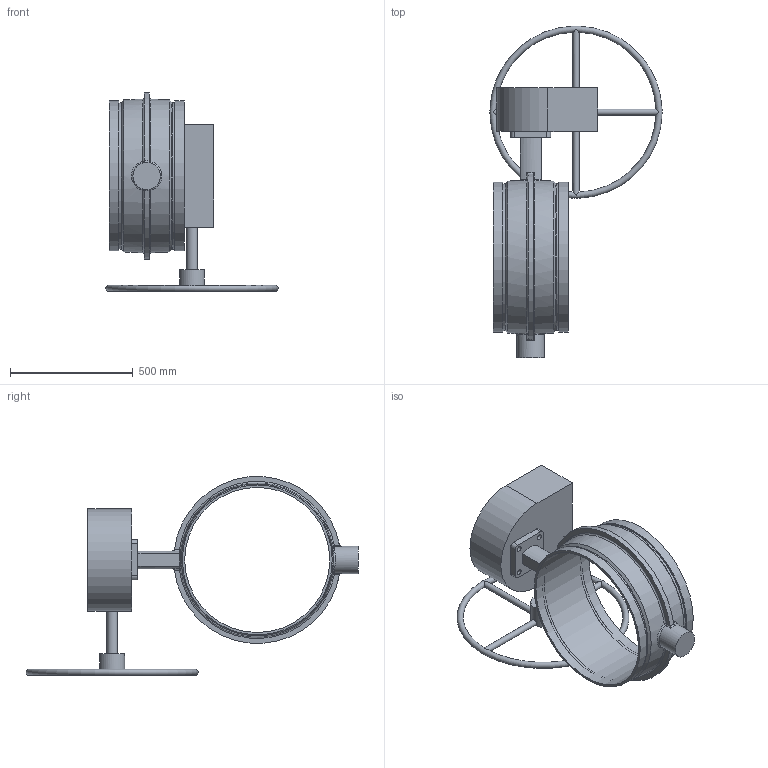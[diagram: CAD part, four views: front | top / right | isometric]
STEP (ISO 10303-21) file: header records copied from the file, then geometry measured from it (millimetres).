
FILE_DESCRIPTION(/* description */ ('VIC AGS VALVE BUTTERFLY VIC-300 MS GO SERIES W761 (AGS)'),/* implementation_level */ '2;1');
FILE_NAME(/* name */ 'C:\Files for Export\W761\STEP\Victaulic_IPS-AGS_Vlv Btfl Vic-300 MS GO_Series W761 (AGS)\Victaulic_IPS-AGS_Vlv Btfl Vic-300 MS GO_Series W761 (AGS)_24 (600).stp',/* time_stamp */ '2024-08-27T14:19:40+02:00',/* author */ ('jheald'),/* organization */ ('Victaulic'),/* preprocessor_version */ 'ST-DEVELOPER v18.1',/* originating_system */ 'Autodesk Inventor 2020',/* authorisation */ '');
FILE_SCHEMA (('AUTOMOTIVE_DESIGN { 1 0 10303 214 3 1 1 }'));
Length unit declared in the file: inch
Products named in the file (1): W761-24.0
Bounding box: 700.02 x 1350.26 x 809.1 mm (x, y, z)
Volume: 41060068.8 mm3; surface area: 2300903.8 mm2
Topology: 1 solids, 1 shells, 93 faces, 259 edges, 170 vertices
Faces by surface type: cylinder 33, plane 27, torus 11, bspline 10, sphere 8, cone 4
Full cylindrical faces by diameter (mm): 21.438 x4, 24.994 x4, 44.45 x1, 101.6 x1, 111.76 x1, 590.042 x1, 596.9 x2, 609.6 x2
Entity records: 3948 total; most frequent: CARTESIAN_POINT 1459, ORIENTED_EDGE 520, DIRECTION 467, EDGE_CURVE 260, AXIS2_PLACEMENT_3D 199, VERTEX_POINT 171, CIRCLE 115, EDGE_LOOP 105
